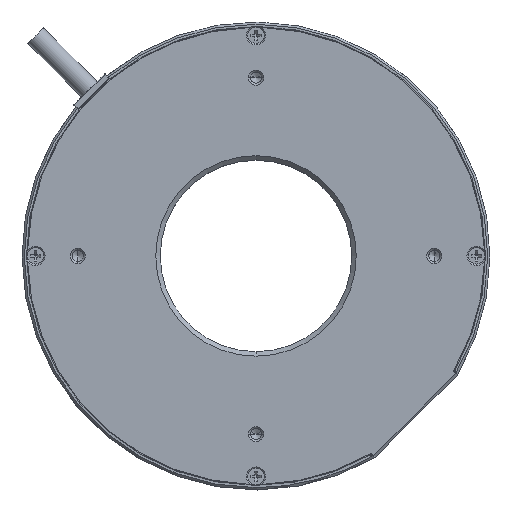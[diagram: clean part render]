
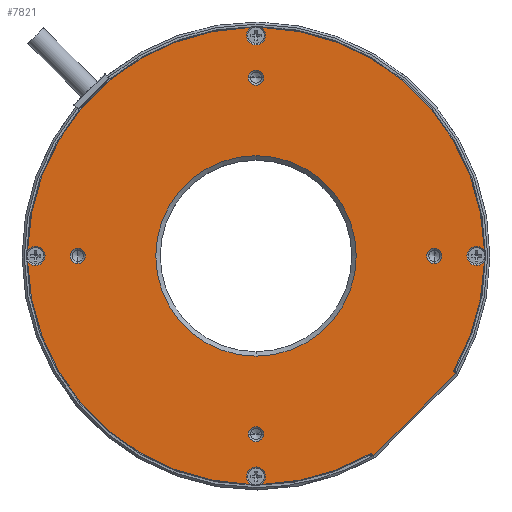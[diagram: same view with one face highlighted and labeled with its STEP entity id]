
A CAD part, top view. The second image highlights one B-rep face of the part: STEP entity #7821.
In plain terms, the highlighted planar face has unit normal (0, 0, 1).
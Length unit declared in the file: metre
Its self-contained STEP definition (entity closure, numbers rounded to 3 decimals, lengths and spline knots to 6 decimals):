
#1335=CARTESIAN_POINT('',(0.,0.,0.002));
#1336=DIRECTION('',(0.,0.,-1.));
#1337=DIRECTION('',(0.,1.,0.));
#1338=AXIS2_PLACEMENT_3D('',#1335,#1336,#1337);
#1340=CARTESIAN_POINT('',(0.,0.,0.002));
#1341=DIRECTION('',(0.,0.,-1.));
#1342=DIRECTION('',(0.,-1.,0.));
#1343=AXIS2_PLACEMENT_3D('',#1340,#1341,#1342);
#1345=CARTESIAN_POINT('',(-0.04,0.,0.002));
#1346=DIRECTION('',(0.,0.,-1.));
#1347=DIRECTION('',(0.,-1.,0.));
#1348=AXIS2_PLACEMENT_3D('',#1345,#1346,#1347);
#1350=CARTESIAN_POINT('',(-0.04,0.,0.002));
#1351=DIRECTION('',(0.,0.,-1.));
#1352=DIRECTION('',(0.,1.,0.));
#1353=AXIS2_PLACEMENT_3D('',#1350,#1351,#1352);
#1355=CARTESIAN_POINT('',(0.,-0.04,0.002));
#1356=DIRECTION('',(0.,0.,-1.));
#1357=DIRECTION('',(1.,0.,0.));
#1358=AXIS2_PLACEMENT_3D('',#1355,#1356,#1357);
#1360=CARTESIAN_POINT('',(0.,-0.04,0.002));
#1361=DIRECTION('',(0.,0.,-1.));
#1362=DIRECTION('',(-1.,0.,0.));
#1363=AXIS2_PLACEMENT_3D('',#1360,#1361,#1362);
#1365=CARTESIAN_POINT('',(0.04,0.,0.002));
#1366=DIRECTION('',(0.,0.,-1.));
#1367=DIRECTION('',(0.,1.,0.));
#1368=AXIS2_PLACEMENT_3D('',#1365,#1366,#1367);
#1370=CARTESIAN_POINT('',(0.04,0.,0.002));
#1371=DIRECTION('',(0.,0.,-1.));
#1372=DIRECTION('',(0.,-1.,0.));
#1373=AXIS2_PLACEMENT_3D('',#1370,#1371,#1372);
#1375=CARTESIAN_POINT('',(0.,0.04,0.002));
#1376=DIRECTION('',(0.,0.,-1.));
#1377=DIRECTION('',(-1.,0.,0.));
#1378=AXIS2_PLACEMENT_3D('',#1375,#1376,#1377);
#1380=CARTESIAN_POINT('',(0.,0.04,0.002));
#1381=DIRECTION('',(0.,0.,-1.));
#1382=DIRECTION('',(1.,0.,0.));
#1383=AXIS2_PLACEMENT_3D('',#1380,#1381,#1382);
#1385=CARTESIAN_POINT('',(0.,0.,0.002));
#1386=DIRECTION('',(0.,0.,1.));
#1387=DIRECTION('',(0.867,-0.498,0.));
#1388=AXIS2_PLACEMENT_3D('',#1385,#1386,#1387);
#1390=CARTESIAN_POINT('',(0.044908,-0.025816,0.002));
#1391=DIRECTION('',(0.,0.,-1.));
#1392=DIRECTION('',(-0.707,-0.707,0.));
#1393=AXIS2_PLACEMENT_3D('',#1390,#1391,#1392);
#1395=DIRECTION('',(-0.707,0.707,0.));
#1396=VECTOR('',#1395,0.000355);
#1397=CARTESIAN_POINT('',(0.044806,-0.026421,0.002));
#1398=LINE('',#1397,#1396);
#1399=DIRECTION('',(0.707,0.707,0.));
#1400=VECTOR('',#1399,0.026);
#1401=CARTESIAN_POINT('',(0.026421,-0.044806,0.002));
#1402=LINE('',#1401,#1400);
#1403=DIRECTION('',(0.707,-0.707,0.));
#1404=VECTOR('',#1403,0.000355);
#1405=CARTESIAN_POINT('',(0.02617,-0.044555,0.002));
#1406=LINE('',#1405,#1404);
#1407=CARTESIAN_POINT('',(0.025816,-0.044908,0.002));
#1408=DIRECTION('',(0.,0.,-1.));
#1409=DIRECTION('',(-0.498,0.867,0.));
#1410=AXIS2_PLACEMENT_3D('',#1407,#1408,#1409);
#1412=CARTESIAN_POINT('',(0.,0.,0.002));
#1413=DIRECTION('',(0.,0.,1.));
#1414=DIRECTION('',(0.023,-1.,0.));
#1415=AXIS2_PLACEMENT_3D('',#1412,#1413,#1414);
#1417=CARTESIAN_POINT('',(0.,0.,0.002));
#1418=DIRECTION('',(0.,0.,1.));
#1419=DIRECTION('',(-1.,-0.023,0.));
#1420=AXIS2_PLACEMENT_3D('',#1417,#1418,#1419);
#1422=CARTESIAN_POINT('',(0.,0.,0.002));
#1423=DIRECTION('',(0.,0.,1.));
#1424=DIRECTION('',(-0.023,1.,0.));
#1425=AXIS2_PLACEMENT_3D('',#1422,#1423,#1424);
#1427=CARTESIAN_POINT('',(0.,0.,0.002));
#1428=DIRECTION('',(0.,0.,1.));
#1429=DIRECTION('',(1.,0.023,0.));
#1430=AXIS2_PLACEMENT_3D('',#1427,#1428,#1429);
#1626=CARTESIAN_POINT('',(0.0495,0.,0.002));
#1627=DIRECTION('',(0.,0.,-1.));
#1628=DIRECTION('',(0.831,-0.557,0.));
#1629=AXIS2_PLACEMENT_3D('',#1626,#1627,#1628);
#3284=CARTESIAN_POINT('',(0.,0.0495,0.002));
#3285=DIRECTION('',(0.,0.,-1.));
#3286=DIRECTION('',(0.557,0.831,0.));
#3287=AXIS2_PLACEMENT_3D('',#3284,#3285,#3286);
#3611=CARTESIAN_POINT('',(-0.0495,0.,0.002));
#3612=DIRECTION('',(0.,0.,-1.));
#3613=DIRECTION('',(-0.831,0.557,0.));
#3614=AXIS2_PLACEMENT_3D('',#3611,#3612,#3613);
#3945=CARTESIAN_POINT('',(0.,-0.0495,0.002));
#3946=DIRECTION('',(0.,0.,-1.));
#3947=DIRECTION('',(-0.557,-0.831,0.));
#3948=AXIS2_PLACEMENT_3D('',#3945,#3946,#3947);
#4609=CARTESIAN_POINT('',(0.044475,-0.025567,0.002));
#4610=CARTESIAN_POINT('',(0.051286,-0.001197,0.002));
#4611=VERTEX_POINT('',#4609);
#4612=VERTEX_POINT('',#4610);
#4613=CARTESIAN_POINT('',(0.044555,-0.02617,0.002));
#4614=VERTEX_POINT('',#4613);
#4615=CARTESIAN_POINT('',(0.044806,-0.026421,0.002));
#4616=VERTEX_POINT('',#4615);
#4617=CARTESIAN_POINT('',(0.026421,-0.044806,0.002));
#4618=VERTEX_POINT('',#4617);
#4619=CARTESIAN_POINT('',(0.02617,-0.044555,0.002));
#4620=VERTEX_POINT('',#4619);
#4621=CARTESIAN_POINT('',(0.025567,-0.044475,0.002));
#4622=VERTEX_POINT('',#4621);
#4623=CARTESIAN_POINT('',(0.001197,-0.051286,0.002));
#4624=VERTEX_POINT('',#4623);
#4625=CARTESIAN_POINT('',(-0.051286,-0.001197,0.002));
#4626=CARTESIAN_POINT('',(-0.001197,-0.051286,0.002));
#4627=VERTEX_POINT('',#4625);
#4628=VERTEX_POINT('',#4626);
#4629=CARTESIAN_POINT('',(-0.001197,0.051286,0.002));
#4630=CARTESIAN_POINT('',(-0.051286,0.001197,0.002));
#4631=VERTEX_POINT('',#4629);
#4632=VERTEX_POINT('',#4630);
#4633=CARTESIAN_POINT('',(0.051286,0.001197,0.002));
#4634=CARTESIAN_POINT('',(0.001197,0.051286,0.002));
#4635=VERTEX_POINT('',#4633);
#4636=VERTEX_POINT('',#4634);
#4637=CARTESIAN_POINT('',(0.0017,0.04,0.002));
#4638=CARTESIAN_POINT('',(-0.0017,0.04,0.002));
#4639=VERTEX_POINT('',#4637);
#4640=VERTEX_POINT('',#4638);
#4641=CARTESIAN_POINT('',(0.04,-0.0017,0.002));
#4642=CARTESIAN_POINT('',(0.04,0.0017,0.002));
#4643=VERTEX_POINT('',#4641);
#4644=VERTEX_POINT('',#4642);
#4645=CARTESIAN_POINT('',(-0.0017,-0.04,0.002));
#4646=CARTESIAN_POINT('',(0.0017,-0.04,0.002));
#4647=VERTEX_POINT('',#4645);
#4648=VERTEX_POINT('',#4646);
#4649=CARTESIAN_POINT('',(-0.04,0.0017,0.002));
#4650=CARTESIAN_POINT('',(-0.04,-0.0017,0.002));
#4651=VERTEX_POINT('',#4649);
#4652=VERTEX_POINT('',#4650);
#4653=CARTESIAN_POINT('',(0.,-0.0225,0.002));
#4654=CARTESIAN_POINT('',(0.,0.0225,0.002));
#4655=VERTEX_POINT('',#4653);
#4656=VERTEX_POINT('',#4654);
#7758=CARTESIAN_POINT('',(0.,0.,0.002));
#7759=DIRECTION('',(0.,0.,-1.));
#7760=DIRECTION('',(0.,-1.,0.));
#7761=AXIS2_PLACEMENT_3D('',#7758,#7759,#7760);
#7762=PLANE('',#7761);
#7764=ORIENTED_EDGE('',*,*,#7763,.F.);
#7766=ORIENTED_EDGE('',*,*,#7765,.F.);
#7768=ORIENTED_EDGE('',*,*,#7767,.F.);
#7770=ORIENTED_EDGE('',*,*,#7769,.F.);
#7772=ORIENTED_EDGE('',*,*,#7771,.F.);
#7774=ORIENTED_EDGE('',*,*,#7773,.F.);
#7776=ORIENTED_EDGE('',*,*,#7775,.F.);
#7778=ORIENTED_EDGE('',*,*,#7777,.F.);
#7780=ORIENTED_EDGE('',*,*,#7779,.F.);
#7782=ORIENTED_EDGE('',*,*,#7781,.F.);
#7784=ORIENTED_EDGE('',*,*,#7783,.F.);
#7786=ORIENTED_EDGE('',*,*,#7785,.F.);
#7788=ORIENTED_EDGE('',*,*,#7787,.F.);
#7790=ORIENTED_EDGE('',*,*,#7789,.F.);
#7791=EDGE_LOOP('',(#7764,#7766,#7768,#7770,#7772,#7774,#7776,#7778,#7780,#7782,
#7784,#7786,#7788,#7790));
#7792=FACE_OUTER_BOUND('',#7791,.F.);
#7794=ORIENTED_EDGE('',*,*,#7793,.F.);
#7796=ORIENTED_EDGE('',*,*,#7795,.F.);
#7797=EDGE_LOOP('',(#7794,#7796));
#7798=FACE_BOUND('',#7797,.F.);
#7800=ORIENTED_EDGE('',*,*,#7799,.F.);
#7802=ORIENTED_EDGE('',*,*,#7801,.F.);
#7803=EDGE_LOOP('',(#7800,#7802));
#7804=FACE_BOUND('',#7803,.F.);
#7806=ORIENTED_EDGE('',*,*,#7805,.F.);
#7808=ORIENTED_EDGE('',*,*,#7807,.F.);
#7809=EDGE_LOOP('',(#7806,#7808));
#7810=FACE_BOUND('',#7809,.F.);
#7812=ORIENTED_EDGE('',*,*,#7811,.F.);
#7814=ORIENTED_EDGE('',*,*,#7813,.F.);
#7815=EDGE_LOOP('',(#7812,#7814));
#7816=FACE_BOUND('',#7815,.F.);
#7817=ORIENTED_EDGE('',*,*,#7737,.F.);
#7818=ORIENTED_EDGE('',*,*,#7751,.F.);
#7819=EDGE_LOOP('',(#7817,#7818));
#7820=FACE_BOUND('',#7819,.F.);
#7821=ADVANCED_FACE('',(#7792,#7798,#7804,#7810,#7816,#7820),#7762,.F.);
#1339=CIRCLE('',#1338,0.0225);
#1344=CIRCLE('',#1343,0.0225);
#1349=CIRCLE('',#1348,0.0017);
#1354=CIRCLE('',#1353,0.0017);
#1359=CIRCLE('',#1358,0.0017);
#1364=CIRCLE('',#1363,0.0017);
#1369=CIRCLE('',#1368,0.0017);
#1374=CIRCLE('',#1373,0.0017);
#1379=CIRCLE('',#1378,0.0017);
#1384=CIRCLE('',#1383,0.0017);
#1389=CIRCLE('',#1388,0.0513);
#1394=CIRCLE('',#1393,0.0005);
#1411=CIRCLE('',#1410,0.0005);
#1416=CIRCLE('',#1415,0.0513);
#1421=CIRCLE('',#1420,0.0513);
#1426=CIRCLE('',#1425,0.0513);
#1431=CIRCLE('',#1430,0.0513);
#1630=CIRCLE('',#1629,0.00215);
#3288=CIRCLE('',#3287,0.00215);
#3615=CIRCLE('',#3614,0.00215);
#3949=CIRCLE('',#3948,0.00215);
#7737=EDGE_CURVE('',#4656,#4655,#1339,.T.);
#7751=EDGE_CURVE('',#4655,#4656,#1344,.T.);
#7763=EDGE_CURVE('',#4612,#4635,#1630,.T.);
#7765=EDGE_CURVE('',#4611,#4612,#1389,.T.);
#7767=EDGE_CURVE('',#4614,#4611,#1394,.T.);
#7769=EDGE_CURVE('',#4616,#4614,#1398,.T.);
#7771=EDGE_CURVE('',#4618,#4616,#1402,.T.);
#7773=EDGE_CURVE('',#4620,#4618,#1406,.T.);
#7775=EDGE_CURVE('',#4622,#4620,#1411,.T.);
#7777=EDGE_CURVE('',#4624,#4622,#1416,.T.);
#7779=EDGE_CURVE('',#4628,#4624,#3949,.T.);
#7781=EDGE_CURVE('',#4627,#4628,#1421,.T.);
#7783=EDGE_CURVE('',#4632,#4627,#3615,.T.);
#7785=EDGE_CURVE('',#4631,#4632,#1426,.T.);
#7787=EDGE_CURVE('',#4636,#4631,#3288,.T.);
#7789=EDGE_CURVE('',#4635,#4636,#1431,.T.);
#7793=EDGE_CURVE('',#4652,#4651,#1349,.T.);
#7795=EDGE_CURVE('',#4651,#4652,#1354,.T.);
#7799=EDGE_CURVE('',#4648,#4647,#1359,.T.);
#7801=EDGE_CURVE('',#4647,#4648,#1364,.T.);
#7805=EDGE_CURVE('',#4644,#4643,#1369,.T.);
#7807=EDGE_CURVE('',#4643,#4644,#1374,.T.);
#7811=EDGE_CURVE('',#4640,#4639,#1379,.T.);
#7813=EDGE_CURVE('',#4639,#4640,#1384,.T.);
